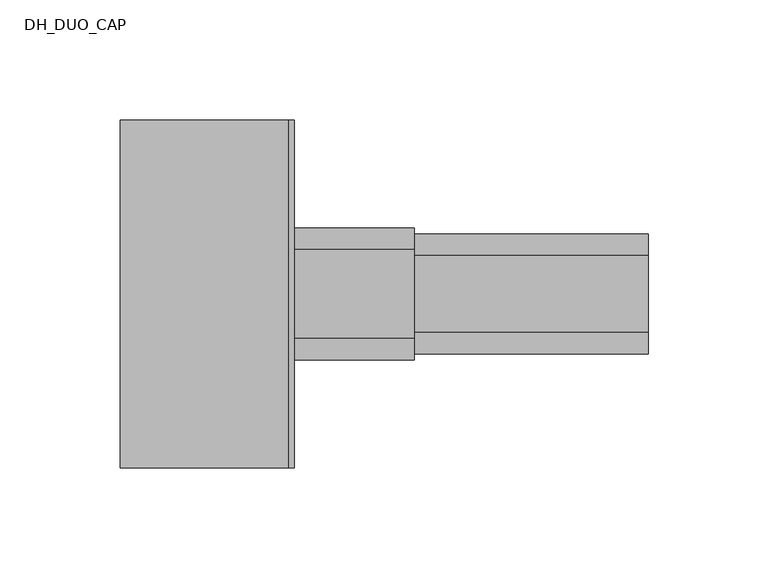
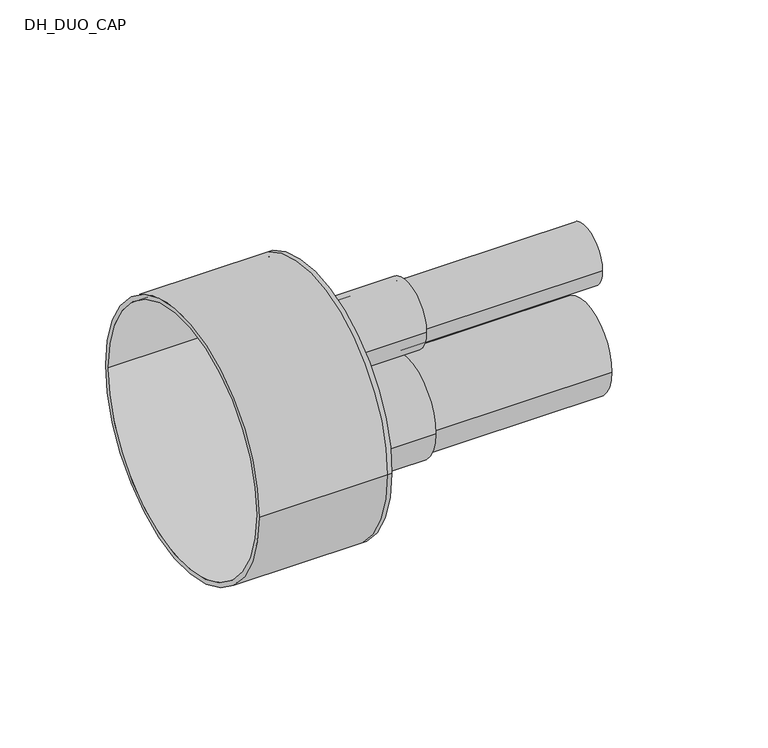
"""IFC4 building model written with IfcOpenShell, lengths in millimetres: pipe fitting geometry, DH_DUO_CAP : INSULPEX DUO 7.4 DW - Schrink Cap."""

from ifc_helpers import new_model, si_unit, point, frame, frame_2d, origin, place, context, project, spatial, polyline, circle_curve, trimmed, segment, composite_curve, outline, extrude, source, transform, mapped, element, save
from ifc_brep_helpers import plane_surface, cylinder_surface, revolved_surface, advanced_brep


def dh_duo_cap_549dceba(model_context):
    return source(origin(), model_context, "Body", "SolidModel", [
        extrude(outline(composite_curve([segment(trimmed(circle_curve(frame_2d((0.0, -22.0)), 25.0), [point((-25.0, -22.0))], [point((25.0, -22.0))], False, "CARTESIAN"), True, "CONTINUOUS"), segment(trimmed(circle_curve(frame_2d((0.0, -22.0)), 25.0), [point((25.0, -22.0))], [point((-25.0, -22.0))], False, "CARTESIAN"), True, "CONTINUOUS")], self_intersect=False), holes=[composite_curve([segment(trimmed(circle_curve(frame_2d((0.0, -22.0)), 18.1), [point((-18.1, -22.0))], [point((18.1, -22.0))], True, "CARTESIAN"), True, "CONTINUOUS"), segment(trimmed(circle_curve(frame_2d((0.0, -22.0)), 18.1), [point((18.1, -22.0))], [point((-18.1, -22.0))], True, "CARTESIAN"), True, "CONTINUOUS")], self_intersect=False)]), frame((0.0, 0.0, 0.0), z_axis=(1.0, 0.0, 0.0), x_axis=(0.0, 1.0, 0.0)), (0.0, 0.0, 1.0), 150.0),
        extrude(outline(composite_curve([segment(trimmed(circle_curve(frame_2d((0.0, 31.0)), 16.0), [point((-16.0, 31.0))], [point((16.0, 31.0))], False, "CARTESIAN"), True, "CONTINUOUS"), segment(trimmed(circle_curve(frame_2d((0.0, 31.0)), 16.0), [point((16.0, 31.0))], [point((-16.0, 31.0))], False, "CARTESIAN"), True, "CONTINUOUS")], self_intersect=False), holes=[composite_curve([segment(trimmed(circle_curve(frame_2d((0.0, 31.0)), 11.6), [point((-11.6, 31.0))], [point((11.6, 31.0))], True, "CARTESIAN"), True, "CONTINUOUS"), segment(trimmed(circle_curve(frame_2d((0.0, 31.0)), 11.6), [point((11.6, 31.0))], [point((-11.6, 31.0))], True, "CARTESIAN"), True, "CONTINUOUS")], self_intersect=False)]), frame((0.0, 0.0, 0.0), z_axis=(1.0, 0.0, 0.0), x_axis=(0.0, 1.0, 0.0)), (0.0, 0.0, 1.0), 150.0),
        advanced_brep(
        [(-70.0, -72.5, 0.0), (-70.0, 72.5, 0.0), (-70.0, -70.0, 0.0), (-70.0, 70.0, 0.0), (0.0, -70.0, 0.0), (0.0, 70.0, 0.0), (0.0, -72.5, 0.0), (0.0, 72.5, 0.0), (0.0, 16.0, 31.0), (0.0, -16.0, 31.0), (0.0, 25.0, -22.0), (0.0, -25.0, -22.0), (2.5, -72.5, 0.0), (2.5, 72.5, 0.0), (2.5, -16.0, 31.0), (2.5, 16.0, 31.0), (2.5, -25.0, -22.0), (2.5, 25.0, -22.0)],
        [
            (0, 1, circle_curve(frame((-70.0, 0.0, 0.0), z_axis=(-1.0, 0.0, 0.0), x_axis=(0.0, 1.0, 0.0)), 72.5)),
            (1, 0, circle_curve(frame((-70.0, 0.0, 0.0), z_axis=(-1.0, 0.0, 0.0), x_axis=(0.0, 1.0, 0.0)), 72.5)),
            (2, 3, circle_curve(frame((-70.0, 0.0, 0.0), z_axis=(1.0, 0.0, 0.0), x_axis=(0.0, 1.0, 0.0)), 70.0)),
            (3, 2, circle_curve(frame((-70.0, 0.0, 0.0), z_axis=(1.0, 0.0, 0.0), x_axis=(0.0, 1.0, 0.0)), 70.0)),
            (2, 4),
            (4, 5, circle_curve(frame((0.0, 0.0, 0.0), z_axis=(1.0, 0.0, 0.0), x_axis=(0.0, 1.0, 0.0)), 70.0)),
            (5, 3),
            (5, 4, circle_curve(frame((0.0, 0.0, 0.0), z_axis=(1.0, 0.0, 0.0), x_axis=(0.0, 1.0, 0.0)), 70.0)),
            (0, 6),
            (6, 7, circle_curve(frame((0.0, 0.0, 0.0), z_axis=(-1.0, 0.0, 0.0), x_axis=(0.0, 1.0, 0.0)), 72.5)),
            (7, 1),
            (7, 6, circle_curve(frame((0.0, 0.0, 0.0), z_axis=(-1.0, 0.0, 0.0), x_axis=(0.0, 1.0, 0.0)), 72.5)),
            (8, 9, circle_curve(frame((0.0, 0.0, 31.0), z_axis=(1.0, 0.0, 0.0), x_axis=(0.0, 1.0, 0.0)), 16.0)),
            (9, 8, circle_curve(frame((0.0, 0.0, 31.0), z_axis=(1.0, 0.0, 0.0), x_axis=(0.0, 1.0, 0.0)), 16.0)),
            (10, 11, circle_curve(frame((0.0, 0.0, -22.0), z_axis=(1.0, 0.0, 0.0), x_axis=(0.0, 1.0, 0.0)), 25.0)),
            (11, 10, circle_curve(frame((0.0, 0.0, -22.0), z_axis=(1.0, 0.0, 0.0), x_axis=(0.0, 1.0, 0.0)), 25.0)),
            (12, 13, circle_curve(frame((2.5, 0.0, 0.0), z_axis=(1.0, 0.0, 0.0), x_axis=(0.0, 1.0, 0.0)), 72.5)),
            (13, 12, circle_curve(frame((2.5, 0.0, 0.0), z_axis=(1.0, 0.0, 0.0), x_axis=(0.0, 1.0, 0.0)), 72.5)),
            (14, 15, circle_curve(frame((2.5, 0.0, 31.0), z_axis=(-1.0, 0.0, 0.0), x_axis=(0.0, 1.0, 0.0)), 16.0)),
            (15, 14, circle_curve(frame((2.5, 0.0, 31.0), z_axis=(-1.0, 0.0, 0.0), x_axis=(0.0, 1.0, 0.0)), 16.0)),
            (16, 17, circle_curve(frame((2.5, 0.0, -22.0), z_axis=(-1.0, 0.0, 0.0), x_axis=(0.0, 1.0, 0.0)), 25.0)),
            (17, 16, circle_curve(frame((2.5, 0.0, -22.0), z_axis=(-1.0, 0.0, 0.0), x_axis=(0.0, 1.0, 0.0)), 25.0)),
            (13, 7),
            (6, 12),
            (8, 15),
            (14, 9),
            (10, 17),
            (16, 11),
        ],
        [
            plane_surface(frame((-70.0, 0.0, 0.0), z_axis=(-1.0, 0.0, 0.0), x_axis=(0.0, 0.0, 1.0))),
            revolved_surface(polyline([(0.0, 70.0, 0.0), (-70.0, 70.0, 0.0)]), (-70.0, 0.0, 0.0), (1.0, 0.0, 0.0)),
            cylinder_surface(frame((-70.0, 0.0, 0.0), z_axis=(-1.0, 0.0, 0.0), x_axis=(0.0, 1.0, 0.0)), 72.5),
            plane_surface(frame((0.0, 0.0, 0.0), z_axis=(-1.0, 0.0, 0.0), x_axis=(0.0, 0.0, 1.0))),
            plane_surface(frame((2.5, 0.0, 0.0), z_axis=(1.0, 0.0, 0.0), x_axis=(0.0, 0.0, 1.0))),
            cylinder_surface(frame((0.0, 0.0, 0.0), z_axis=(-1.0, 0.0, 0.0), x_axis=(0.0, 1.0, 0.0)), 72.5),
            revolved_surface(polyline([(0.0, 16.0, 31.0), (2.5, 16.0, 31.0)]), (0.0, 0.0, 31.0), (-1.0, 0.0, 0.0)),
            revolved_surface(polyline([(0.0, 25.0, -22.0), (2.5, 25.0, -22.0)]), (0.0, 0.0, -22.0), (-1.0, 0.0, 0.0)),
        ],
        [
            (0, [[1, 2], [3, 4]]),
            (1, [[-3, 5, 6, 7]]),
            (1, [[-4, -7, 8, -5]]),
            (2, [[-1, 9, 10, 11]]),
            (2, [[-2, -11, 12, -9]]),
            (3, [[-6, -8], [13, 14], [15, 16]]),
            (4, [[17, 18], [19, 20], [21, 22]]),
            (5, [[-18, 23, -10, 24]]),
            (5, [[-17, -24, -12, -23]]),
            (6, [[25, -19, 26, -13]]),
            (6, [[-25, -14, -26, -20]]),
            (7, [[27, -21, 28, -15]]),
            (7, [[-27, -16, -28, -22]]),
        ],
    ),
        extrude(outline(composite_curve([segment(trimmed(circle_curve(frame_2d((0.0, -22.0)), 27.5), [point((-27.5, -22.0))], [point((27.5, -22.0))], False, "CARTESIAN"), True, "CONTINUOUS"), segment(trimmed(circle_curve(frame_2d((0.0, -22.0)), 27.5), [point((27.5, -22.0))], [point((-27.5, -22.0))], False, "CARTESIAN"), True, "CONTINUOUS")], self_intersect=False), holes=[composite_curve([segment(trimmed(circle_curve(frame_2d((0.0, -22.0)), 25.0), [point((-25.0, -22.0))], [point((25.0, -22.0))], True, "CARTESIAN"), True, "CONTINUOUS"), segment(trimmed(circle_curve(frame_2d((0.0, -22.0)), 25.0), [point((25.0, -22.0))], [point((-25.0, -22.0))], True, "CARTESIAN"), True, "CONTINUOUS")], self_intersect=False)]), frame((2.5, 0.0, 0.0), z_axis=(1.0, 0.0, 0.0), x_axis=(0.0, 1.0, 0.0)), (0.0, 0.0, 1.0), 50.0),
        extrude(outline(composite_curve([segment(trimmed(circle_curve(frame_2d((0.0, 31.0)), 18.5), [point((-18.5, 31.0))], [point((18.5, 31.0))], False, "CARTESIAN"), True, "CONTINUOUS"), segment(trimmed(circle_curve(frame_2d((0.0, 31.0)), 18.5), [point((18.5, 31.0))], [point((-18.5, 31.0))], False, "CARTESIAN"), True, "CONTINUOUS")], self_intersect=False), holes=[composite_curve([segment(trimmed(circle_curve(frame_2d((0.0, 31.0)), 16.0), [point((-16.0, 31.0))], [point((16.0, 31.0))], True, "CARTESIAN"), True, "CONTINUOUS"), segment(trimmed(circle_curve(frame_2d((0.0, 31.0)), 16.0), [point((16.0, 31.0))], [point((-16.0, 31.0))], True, "CARTESIAN"), True, "CONTINUOUS")], self_intersect=False)]), frame((2.5, 0.0, 0.0), z_axis=(1.0, 0.0, 0.0), x_axis=(0.0, 1.0, 0.0)), (0.0, 0.0, 1.0), 50.0),
    ])


if __name__ == "__main__":
    model = new_model("IFC4")
    model_context = context("Model", 3, world=origin())
    ifc_project = project(units=[si_unit("LENGTHUNIT", "METRE", prefix="MILLI")], contexts=[model_context])
    site = spatial("IfcSite", under=ifc_project)
    building = spatial("IfcBuilding", under=site)
    placement = place(None, origin())
    dh_duo_cap_shape = dh_duo_cap_549dceba(model_context)
    element("IfcPipeFitting", 1, ObjectType="DH_DUO_CAP : INSULPEX DUO 7.4 DW - Schrink Cap", at=placement, inside=building, context=model_context, shape_type="MappedRepresentation", body=[
        mapped(dh_duo_cap_shape, transform((0.0, 0.0, 0.0), x_axis=(1.0, 0.0, 0.0), y_axis=(0.0, 1.0, 0.0), z_axis=(0.0, 0.0, 1.0))),
    ])
    save(model, "model.ifc")
